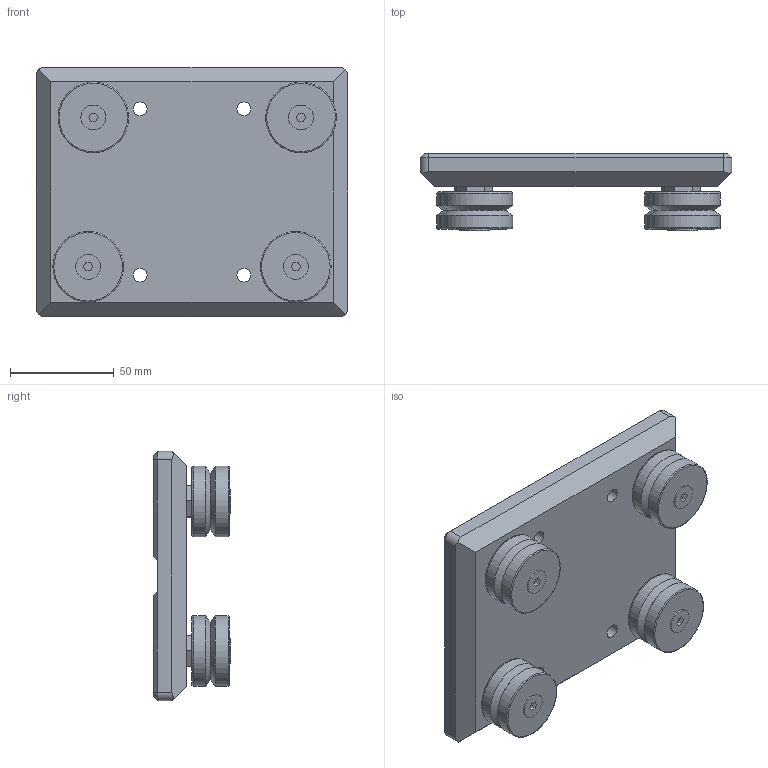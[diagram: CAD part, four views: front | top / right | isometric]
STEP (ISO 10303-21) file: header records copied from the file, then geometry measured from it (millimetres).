
FILE_DESCRIPTION(('STEP AP203'),'1');
FILE_NAME('//192.168.1.1/share/s-4 技術開発/s-4-4_CAD/s-4-4-3_見直し済み/RG 修正済み/RG_TOP/キャリッジプレート/RG-150(GS-44N).step','2022-03-28T02:34:11',(' '),(' '),'Spatial InterOp 3D',' ',' ');
FILE_SCHEMA(('CONFIG_CONTROL_DESIGN'));
Length unit declared in the file: millimetre
Products named in the file (13): 1; 2; 3; 4; 5; 6; 7; 8; 9; 10; 11; 12; 13
Bounding box: 150 x 37.3 x 120 mm (x, y, z)
Volume: 319446.5 mm3; surface area: 70338.5 mm2
Topology: 13 solids, 13 shells, 266 faces, 588 edges, 366 vertices
Faces by surface type: plane 146, cone 60, cylinder 48, torus 8, sphere 4
Full cylindrical faces by diameter (mm): 6.75 x4, 8.5 x4, 10 x12, 10.5 x4, 12 x4, 22 x4, 25 x4, 34 x8
Entity records: 7782 total; most frequent: CARTESIAN_POINT 1685, DIRECTION 1144, ORIENTED_EDGE 1020, EDGE_CURVE 510, AXIS2_PLACEMENT_3D 451, EDGE_LOOP 380, VERTEX_POINT 352, FACE_OUTER_BOUND 320
